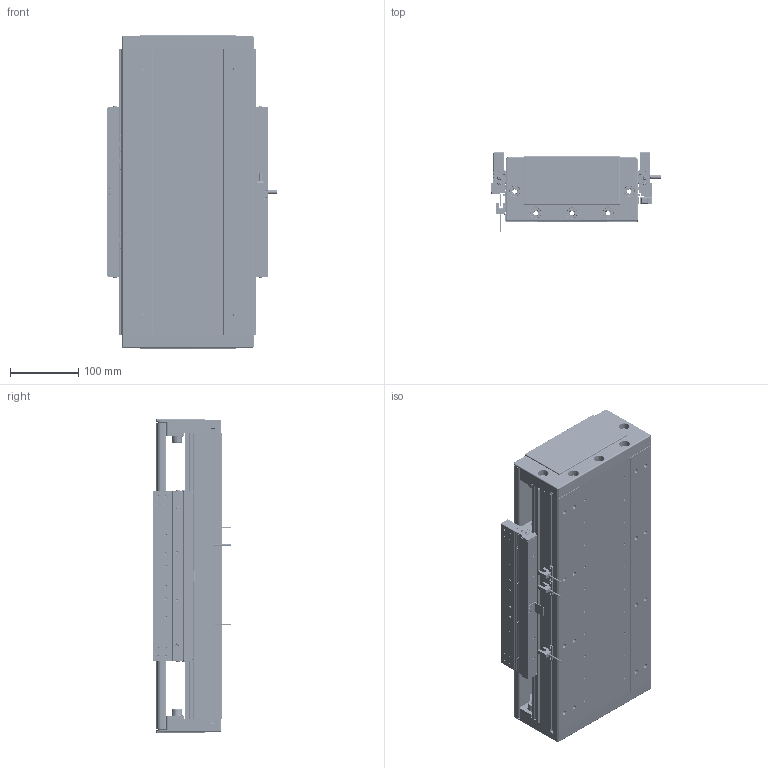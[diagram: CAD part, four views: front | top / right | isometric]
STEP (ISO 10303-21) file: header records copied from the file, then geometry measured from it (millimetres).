
FILE_DESCRIPTION (( 'STEP AP203' ), '1' );
FILE_NAME ('DA-C195-C3-T120-C010-0.2 眻盄萇儂.STEP', '2025-08-15T01:45:45', ( '' ), ( '' ), 'SwSTEP 2.0', 'SolidWorks 2019', '' );
FILE_SCHEMA (( 'CONFIG_CONTROL_DESIGN' ));
Length unit declared in the file: millimetre
Products named in the file (12): PM-T45ㄗ侂狟ㄘ; IU-CU195-L 菁釱絳寢; 66156-0001-003-00 裔啣; CU195-C3賑輸-俋楷; DA95-HXJ-00 遣喳砎蝶; 葩璃 DA95-GT-T-00; LMT黍杅芛; IU-CU195-L-00 菁釱(L420); DA-C195-C3-T120-C010-0.2 眻盄萇儂; MS200 棠掑喜S315-T240; DA165-GYP-00 光电感应片(默认); DA195-DG-H-00  端盖（压铸镂空版）
Assembly tree (20 placements, depth 3):
  DA-C195-C3-T120-C010-0.2 眻盄萇儂
    IU-CU195-L 菁釱絳寢
      IU-CU195-L-00 菁釱(L420)
      葩璃 DA95-GT-T-00  x4
    LMT黍杅芛
    MS200 棠掑喜S315-T240
    PM-T45ㄗ侂狟ㄘ  x3
    DA165-GYP-00 光电感应片(默认)
    DA195-DG-H-00  端盖（压铸镂空版）  x2
    DA95-HXJ-00 遣喳砎蝶  x4
    66156-0001-003-00 裔啣
    CU195-C3賑輸-俋楷
Bounding box: 248 x 115.6 x 460 mm (x, y, z)
Volume: 4496552.1 mm3; surface area: 1229471.8 mm2
Topology: 78 solids, 118 shells, 4897 faces, 12208 edges, 7363 vertices
Faces by surface type: cylinder 1976, plane 1587, bspline 710, cone 544, torus 44, sphere 36
Entity records: 128701 total; most frequent: CARTESIAN_POINT 38745, ORIENTED_EDGE 18502, DIRECTION 18238, EDGE_CURVE 9251, AXIS2_PLACEMENT_3D 6759, VERTEX_POINT 5793, LINE 4720, VECTOR 4720
